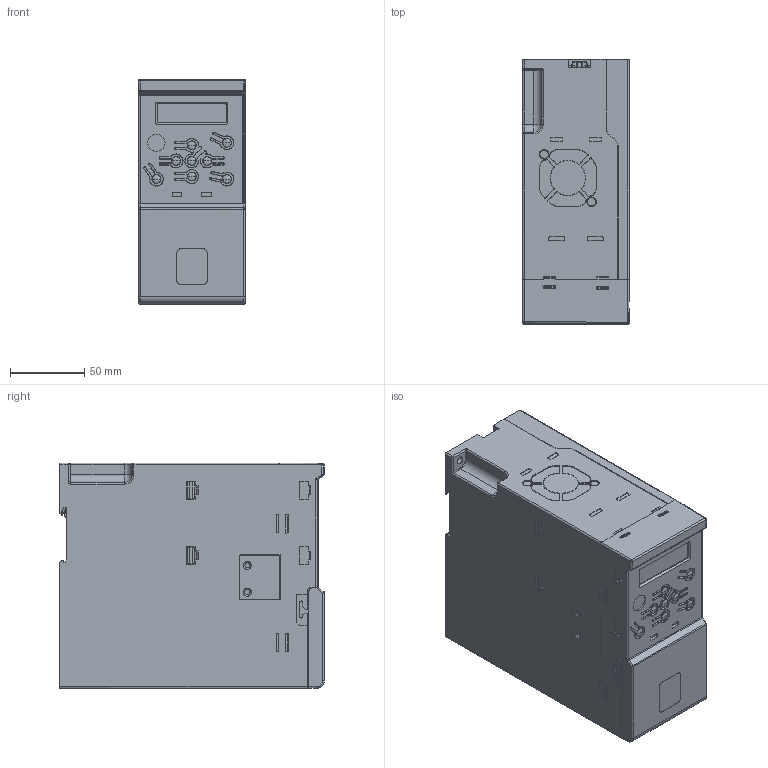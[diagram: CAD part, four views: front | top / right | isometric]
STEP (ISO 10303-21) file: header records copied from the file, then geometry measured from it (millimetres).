
FILE_DESCRIPTION(/* description */ (''),/* implementation_level */ '2;1');
FILE_NAME(/* name */ 'C:\Users\E0537037\Desktop\GabrielEATON\ECO 2020\Drawing Cleanup\ModelosparaGabriel\DM1 PRO_FR1\DM1 PRO_FR1_.stp',/* time_stamp */ '2021-11-16T11:52:14-04:00',/* author */ ('E0537037'),/* organization */ (''),/* preprocessor_version */ 'ST-DEVELOPER v17',/* originating_system */ 'Autodesk Inventor 2018',/* authorisation */ '');
FILE_SCHEMA (('AUTOMOTIVE_DESIGN { 1 0 10303 214 3 1 1 }'));
Products named in the file (1): DM1 PRO_FR1__Shrinkwrap_1
Bounding box: 72 x 178.55 x 152.3 mm (x, y, z)
Volume: 1886376.3 mm3; surface area: 126034.1 mm2
Topology: 1 solids, 1 shells, 1997 faces, 5447 edges, 3493 vertices
Faces by surface type: plane 1263, cylinder 348, cone 154, torus 112, bspline 109, sphere 11
Full cylindrical faces by diameter (mm): 5.2 x2, 11.7 x1, 14.5 x1
Entity records: 70928 total; most frequent: CARTESIAN_POINT 18070, ORIENTED_EDGE 10850, DIRECTION 10290, EDGE_CURVE 5425, LINE 3962, VECTOR 3962, VERTEX_POINT 3493, AXIS2_PLACEMENT_3D 3164
